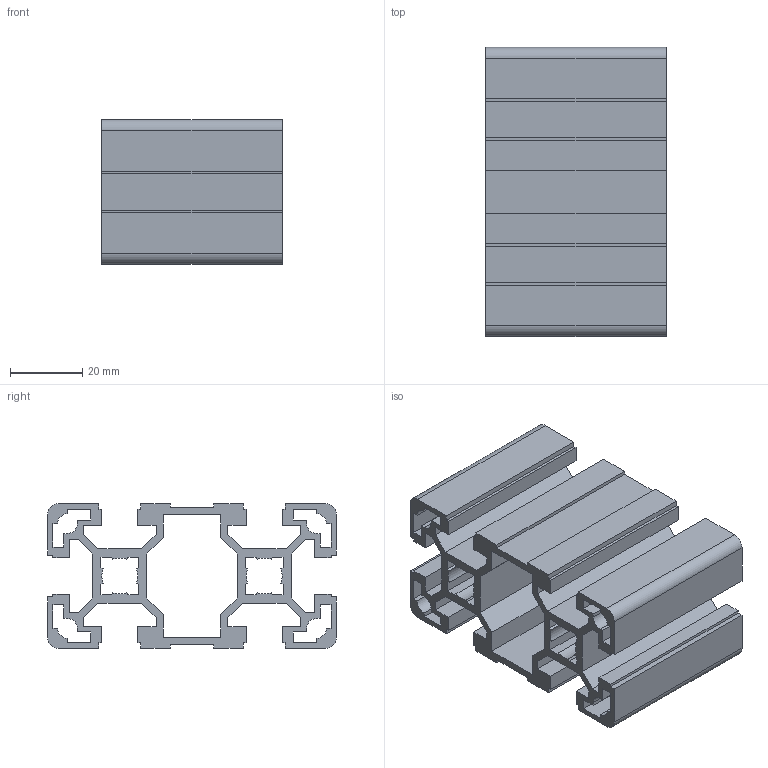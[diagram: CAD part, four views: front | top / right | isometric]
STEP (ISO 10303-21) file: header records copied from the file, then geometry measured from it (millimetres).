
FILE_DESCRIPTION(('no description'),'unknown implementation level');
FILE_NAME('3842993130_115113815.stp',' ',('Bosch Rexroth AG'),('CADClick - KiM GmbH - www.kimweb.de'),'unknown preprocess','ACIS','unknown authorization');
FILE_SCHEMA(('automotive_design'));
Length unit declared in the file: millimetre
Products named in the file (1): 1
Bounding box: 50 x 80 x 40 mm (x, y, z)
Volume: 49084.5 mm3; surface area: 43895.4 mm2
Topology: 1 solids, 1 shells, 202 faces, 600 edges, 400 vertices
Faces by surface type: plane 182, cylinder 20
Entity records: 13332 total; most frequent: STYLED_ITEM 1203, PRESENTATION_STYLE_ASSIGNMENT 1203, CARTESIAN_POINT 1203, COLOUR_RGB 1203, ORIENTED_EDGE 1200, DIRECTION 1046, EDGE_CURVE 600, CURVE_STYLE 600
